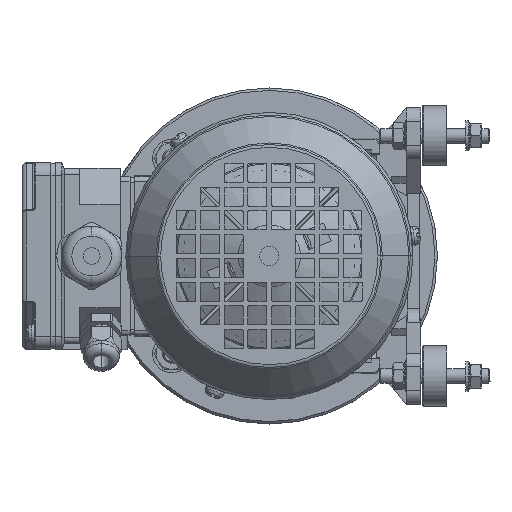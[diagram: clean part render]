
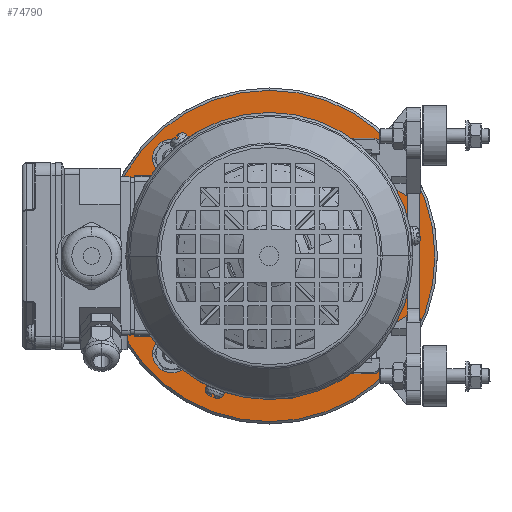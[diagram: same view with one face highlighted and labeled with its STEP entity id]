
A CAD part, front view. The second image highlights one B-rep face of the part: STEP entity #74790.
In plain terms, the highlighted planar face has unit normal (0, -1, 0).
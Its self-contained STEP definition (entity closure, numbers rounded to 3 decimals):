
#8024=CARTESIAN_POINT('',(-0.025,150.209,
0.));
#8025=DIRECTION('',(0.,1.,0.));
#8026=DIRECTION('',(0.,0.,1.));
#8027=AXIS2_PLACEMENT_3D('',#8024,#8025,#8026);
#8064=CARTESIAN_POINT('',(-0.025,150.209,
0.));
#8065=DIRECTION('',(0.,1.,0.));
#8066=DIRECTION('',(0.,0.,-1.));
#8067=AXIS2_PLACEMENT_3D('',#8064,#8065,#8066);
#8072=CARTESIAN_POINT('',(-0.025,150.209,
0.));
#8073=DIRECTION('',(0.,1.,0.));
#8074=DIRECTION('',(-1.,0.,0.));
#8075=AXIS2_PLACEMENT_3D('',#8072,#8073,#8074);
#8094=CARTESIAN_POINT('',(-0.025,150.209,
0.));
#8095=DIRECTION('',(0.,-1.,0.));
#8096=DIRECTION('',(0.,0.,-1.));
#8097=AXIS2_PLACEMENT_3D('',#8094,#8095,#8096);
#8102=CARTESIAN_POINT('',(-0.025,150.209,
0.));
#8103=DIRECTION('',(0.,-1.,0.));
#8104=DIRECTION('',(0.,0.,1.));
#8105=AXIS2_PLACEMENT_3D('',#8102,#8103,#8104);
#12297=CARTESIAN_POINT('',(40.659,150.209,
-40.659));
#12298=DIRECTION('',(0.,-1.,0.));
#12299=DIRECTION('',(1.,0.,0.));
#12300=AXIS2_PLACEMENT_3D('',#12297,#12298,#12299);
#12305=CARTESIAN_POINT('',(40.659,150.209,
-40.659));
#12306=DIRECTION('',(0.,-1.,0.));
#12307=DIRECTION('',(-1.,0.,0.));
#12308=AXIS2_PLACEMENT_3D('',#12305,#12306,#12307);
#12904=CARTESIAN_POINT('',(-40.659,150.209,
-40.659));
#12905=DIRECTION('',(0.,-1.,0.));
#12906=DIRECTION('',(1.,0.,0.));
#12907=AXIS2_PLACEMENT_3D('',#12904,#12905,#12906);
#12912=CARTESIAN_POINT('',(-40.659,150.209,
-40.659));
#12913=DIRECTION('',(0.,-1.,0.));
#12914=DIRECTION('',(-1.,0.,0.));
#12915=AXIS2_PLACEMENT_3D('',#12912,#12913,#12914);
#13511=CARTESIAN_POINT('',(-40.659,150.209,
40.659));
#13512=DIRECTION('',(0.,-1.,0.));
#13513=DIRECTION('',(1.,0.,0.));
#13514=AXIS2_PLACEMENT_3D('',#13511,#13512,#13513);
#13519=CARTESIAN_POINT('',(-40.659,150.209,
40.659));
#13520=DIRECTION('',(0.,-1.,0.));
#13521=DIRECTION('',(-1.,0.,0.));
#13522=AXIS2_PLACEMENT_3D('',#13519,#13520,#13521);
#14118=CARTESIAN_POINT('',(40.659,150.209,40.659));
#14119=DIRECTION('',(0.,-1.,0.));
#14120=DIRECTION('',(1.,0.,0.));
#14121=AXIS2_PLACEMENT_3D('',#14118,#14119,#14120);
#14126=CARTESIAN_POINT('',(40.659,150.209,40.659));
#14127=DIRECTION('',(0.,-1.,0.));
#14128=DIRECTION('',(-1.,0.,0.));
#14129=AXIS2_PLACEMENT_3D('',#14126,#14127,#14128);
#58408=CARTESIAN_POINT('',(-0.004,150.209,
-69.));
#58410=VERTEX_POINT('',#58408);
#58413=CARTESIAN_POINT('',(-0.046,150.209,
69.));
#58415=VERTEX_POINT('',#58413);
#58416=CARTESIAN_POINT('',(-48.525,150.209,
-0.015));
#58417=CARTESIAN_POINT('',(-0.04,150.209,
48.5));
#58418=VERTEX_POINT('',#58416);
#58419=VERTEX_POINT('',#58417);
#58420=CARTESIAN_POINT('',(-0.01,150.209,
-48.5));
#58421=VERTEX_POINT('',#58420);
#64629=CARTESIAN_POINT('',(48.659,150.209,
-40.659));
#64630=CARTESIAN_POINT('',(32.659,150.209,
-40.659));
#64631=VERTEX_POINT('',#64629);
#64632=VERTEX_POINT('',#64630);
#64633=CARTESIAN_POINT('',(-32.659,150.209,
-40.659));
#64634=CARTESIAN_POINT('',(-48.659,150.209,
-40.659));
#64635=VERTEX_POINT('',#64633);
#64636=VERTEX_POINT('',#64634);
#64637=CARTESIAN_POINT('',(-32.659,150.209,
40.659));
#64638=CARTESIAN_POINT('',(-48.659,150.209,
40.659));
#64639=VERTEX_POINT('',#64637);
#64640=VERTEX_POINT('',#64638);
#64641=CARTESIAN_POINT('',(48.659,150.209,40.659));
#64642=CARTESIAN_POINT('',(32.659,150.209,40.659));
#64643=VERTEX_POINT('',#64641);
#64644=VERTEX_POINT('',#64642);
#74750=CARTESIAN_POINT('',(-0.025,150.209,
0.));
#74751=DIRECTION('',(0.,1.,0.));
#74752=DIRECTION('',(0.,0.,1.));
#74753=AXIS2_PLACEMENT_3D('',#74750,#74751,#74752);
#74754=PLANE('',#74753);
#74756=ORIENTED_EDGE('',*,*,#74755,.F.);
#74758=ORIENTED_EDGE('',*,*,#74757,.F.);
#74759=EDGE_LOOP('',(#74756,#74758));
#74760=FACE_OUTER_BOUND('',#74759,.F.);
#74761=ORIENTED_EDGE('',*,*,#74734,.F.);
#74762=ORIENTED_EDGE('',*,*,#74713,.F.);
#74763=ORIENTED_EDGE('',*,*,#74736,.F.);
#74764=EDGE_LOOP('',(#74761,#74762,#74763));
#74765=FACE_BOUND('',#74764,.F.);
#74767=ORIENTED_EDGE('',*,*,#74766,.T.);
#74769=ORIENTED_EDGE('',*,*,#74768,.T.);
#74770=EDGE_LOOP('',(#74767,#74769));
#74771=FACE_BOUND('',#74770,.F.);
#74773=ORIENTED_EDGE('',*,*,#74772,.T.);
#74775=ORIENTED_EDGE('',*,*,#74774,.T.);
#74776=EDGE_LOOP('',(#74773,#74775));
#74777=FACE_BOUND('',#74776,.F.);
#74779=ORIENTED_EDGE('',*,*,#74778,.T.);
#74781=ORIENTED_EDGE('',*,*,#74780,.T.);
#74782=EDGE_LOOP('',(#74779,#74781));
#74783=FACE_BOUND('',#74782,.F.);
#74785=ORIENTED_EDGE('',*,*,#74784,.T.);
#74787=ORIENTED_EDGE('',*,*,#74786,.T.);
#74788=EDGE_LOOP('',(#74785,#74787));
#74789=FACE_BOUND('',#74788,.F.);
#8028=CIRCLE('',#8027,48.5);
#8068=CIRCLE('',#8067,48.5);
#8076=CIRCLE('',#8075,48.5);
#8098=CIRCLE('',#8097,69.);
#8106=CIRCLE('',#8105,69.);
#12301=CIRCLE('',#12300,8.);
#12309=CIRCLE('',#12308,8.);
#12908=CIRCLE('',#12907,8.);
#12916=CIRCLE('',#12915,8.);
#13515=CIRCLE('',#13514,8.);
#13523=CIRCLE('',#13522,8.);
#14122=CIRCLE('',#14121,8.);
#14130=CIRCLE('',#14129,8.);
#74713=EDGE_CURVE('',#58419,#58421,#8028,.T.);
#74734=EDGE_CURVE('',#58421,#58418,#8068,.T.);
#74736=EDGE_CURVE('',#58418,#58419,#8076,.T.);
#74755=EDGE_CURVE('',#58410,#58415,#8098,.T.);
#74757=EDGE_CURVE('',#58415,#58410,#8106,.T.);
#74766=EDGE_CURVE('',#64631,#64632,#12301,.T.);
#74768=EDGE_CURVE('',#64632,#64631,#12309,.T.);
#74772=EDGE_CURVE('',#64635,#64636,#12908,.T.);
#74774=EDGE_CURVE('',#64636,#64635,#12916,.T.);
#74778=EDGE_CURVE('',#64639,#64640,#13515,.T.);
#74780=EDGE_CURVE('',#64640,#64639,#13523,.T.);
#74784=EDGE_CURVE('',#64643,#64644,#14122,.T.);
#74786=EDGE_CURVE('',#64644,#64643,#14130,.T.);
#74790=ADVANCED_FACE('',(#74760,#74765,#74771,#74777,#74783,#74789),#74754,.F.);
